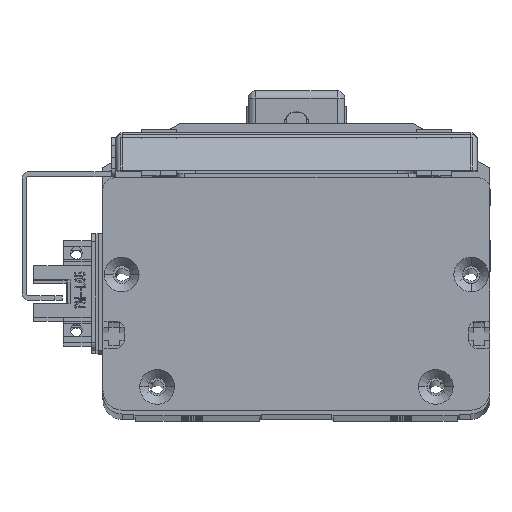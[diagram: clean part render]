
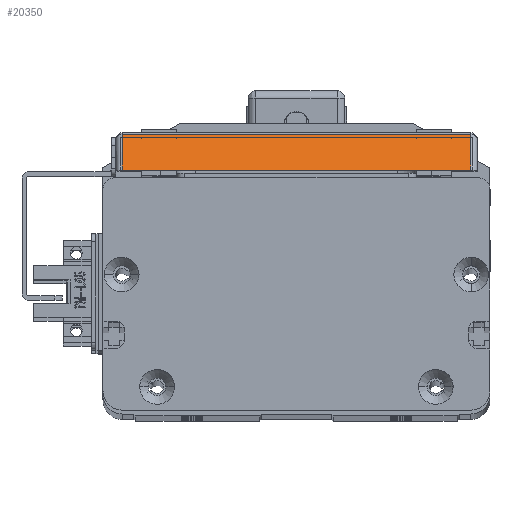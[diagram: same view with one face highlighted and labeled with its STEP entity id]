
A CAD part, top view. The second image highlights one B-rep face of the part: STEP entity #20350.
In plain terms, the highlighted planar face has unit normal (0, 0.707, 0.707) as drawn and (-0.707, 0, -0.707) by its records, which use the part's own axes.
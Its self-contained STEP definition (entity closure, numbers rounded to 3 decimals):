
#3484 = CARTESIAN_POINT ( 'NONE',  ( -68., 1.7, 5.6 ) ) ;
#4354 = CARTESIAN_POINT ( 'NONE',  ( -66.5, 93.4, 4.1 ) ) ;
#7617 = VECTOR ( 'NONE', #34738, 1000. ) ;
#7822 = VERTEX_POINT ( 'NONE', #49775 ) ;
#8574 = EDGE_CURVE ( 'NONE', #51286, #13971, #30006, .T. ) ;
#10421 = CARTESIAN_POINT ( 'NONE',  ( -57.298, 1.7, -5.102 ) ) ;
#11204 = VECTOR ( 'NONE', #68024, 1000. ) ;
#13673 = ORIENTED_EDGE ( 'NONE', *, *, #32021, .T. ) ;
#13971 = VERTEX_POINT ( 'NONE', #39187 ) ;
#14015 = VECTOR ( 'NONE', #68376, 1000. ) ;
#17287 = FACE_OUTER_BOUND ( 'NONE', #67558, .T. ) ;
#20350 = ADVANCED_FACE ( 'NONE', ( #17287 ), #64759, .T. ) ;
#20827 = VERTEX_POINT ( 'NONE', #34016 ) ;
#30006 = LINE ( 'NONE', #3484, #7617 ) ;
#32021 = EDGE_CURVE ( 'NONE', #7822, #20827, #52762, .T. ) ;
#32908 = CARTESIAN_POINT ( 'NONE',  ( -68., 93.4, 5.6 ) ) ;
#33507 = VECTOR ( 'NONE', #42882, 1000. ) ;
#34016 = CARTESIAN_POINT ( 'NONE',  ( -57.298, 91.7, -5.102 ) ) ;
#34738 = DIRECTION ( 'NONE',  ( -0.707, 0., 0.707 ) ) ;
#36840 = ORIENTED_EDGE ( 'NONE', *, *, #49250, .T. ) ;
#38721 = ORIENTED_EDGE ( 'NONE', *, *, #8574, .T. ) ;
#39187 = CARTESIAN_POINT ( 'NONE',  ( -66.5, 1.7, 4.1 ) ) ;
#40559 = LINE ( 'NONE', #4354, #14015 ) ;
#40627 = CARTESIAN_POINT ( 'NONE',  ( -68., 91.7, 5.6 ) ) ;
#42689 = EDGE_CURVE ( 'NONE', #20827, #51286, #49368, .T. ) ;
#42882 = DIRECTION ( 'NONE',  ( 0., -1., 0. ) ) ;
#42973 = ORIENTED_EDGE ( 'NONE', *, *, #42689, .T. ) ;
#47096 = AXIS2_PLACEMENT_3D ( 'NONE', #32908, #53400, #63835 ) ;
#49250 = EDGE_CURVE ( 'NONE', #13971, #7822, #40559, .T. ) ;
#49368 = LINE ( 'NONE', #53376, #33507 ) ;
#49775 = CARTESIAN_POINT ( 'NONE',  ( -66.5, 91.7, 4.1 ) ) ;
#51286 = VERTEX_POINT ( 'NONE', #10421 ) ;
#52762 = LINE ( 'NONE', #40627, #11204 ) ;
#53376 = CARTESIAN_POINT ( 'NONE',  ( -57.298, 93.4, -5.102 ) ) ;
#53400 = DIRECTION ( 'NONE',  ( -0.707, 0., -0.707 ) ) ;
#63835 = DIRECTION ( 'NONE',  ( -0.707, 0., 0.707 ) ) ;
#64759 = PLANE ( 'NONE',  #47096 ) ;
#67558 = EDGE_LOOP ( 'NONE', ( #38721, #36840, #13673, #42973 ) ) ;
#68024 = DIRECTION ( 'NONE',  ( 0.707, 0., -0.707 ) ) ;
#68376 = DIRECTION ( 'NONE',  ( 0., 1., 0. ) ) ;
